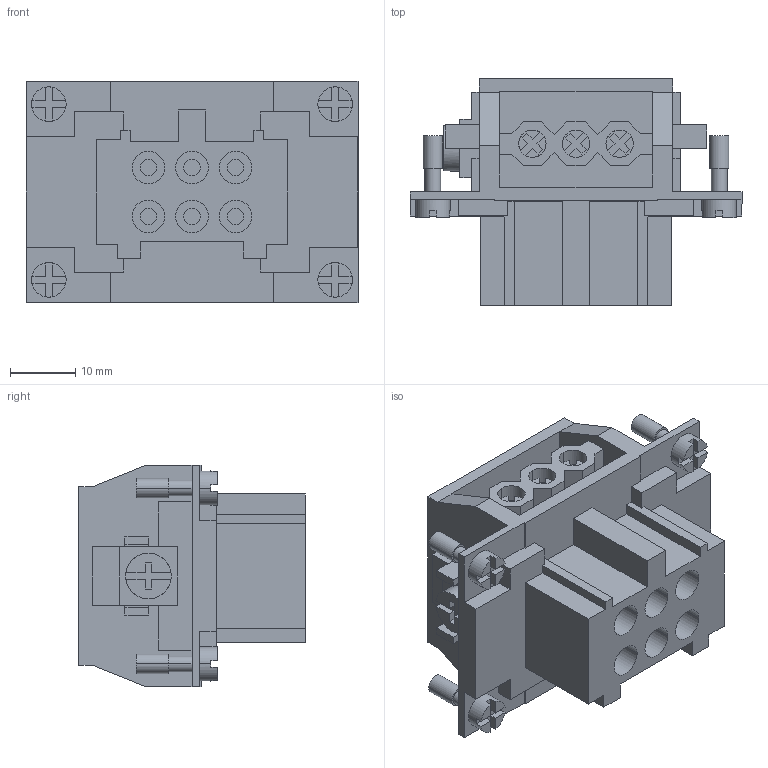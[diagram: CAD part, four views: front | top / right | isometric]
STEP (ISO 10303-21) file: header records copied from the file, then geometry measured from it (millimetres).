
FILE_DESCRIPTION (( 'STEP AP203' ), '1' );
FILE_NAME ('352247.STEP', '2025-06-26T09:05:13', ( '' ), ( '' ), 'SwSTEP 2.0', 'SolidWorks 2018', '' );
FILE_SCHEMA (( 'CONFIG_CONTROL_DESIGN' ));
Length unit declared in the file: millimetre
Products named in the file (1): 352247
Bounding box: 51 x 34.8 x 34 mm (x, y, z)
Volume: 22801.4 mm3; surface area: 12870.5 mm2
Topology: 1 solids, 1 shells, 460 faces, 1242 edges, 828 vertices
Faces by surface type: plane 372, cylinder 88
Entity records: 14439 total; most frequent: CARTESIAN_POINT 2531, ORIENTED_EDGE 2484, DIRECTION 2400, EDGE_CURVE 1242, LINE 1006, VECTOR 1006, VERTEX_POINT 828, AXIS2_PLACEMENT_3D 697
